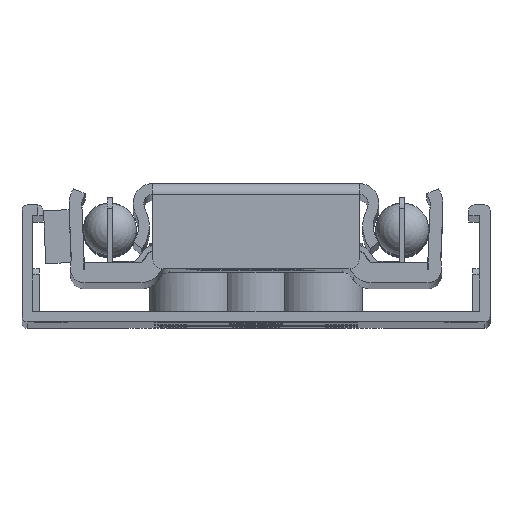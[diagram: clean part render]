
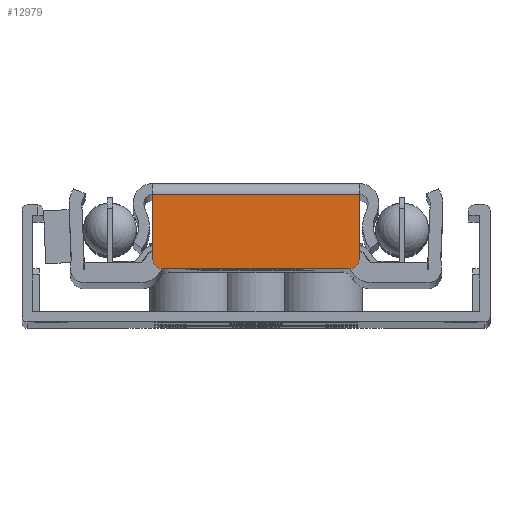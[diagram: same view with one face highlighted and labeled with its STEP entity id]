
A CAD part, top view. The second image highlights one B-rep face of the part: STEP entity #12979.
In plain terms, the highlighted planar face has unit normal (0, 0, 1).
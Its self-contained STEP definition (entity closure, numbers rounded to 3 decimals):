
#918=CIRCLE('',#14247,1.);
#919=CIRCLE('',#14248,1.);
#1699=FACE_OUTER_BOUND('',#2478,.T.);
#2478=EDGE_LOOP('',(#11813,#11814,#11815,#11816,#11817,#11818));
#3755=LINE('',#21959,#5036);
#3756=LINE('',#21962,#5037);
#3757=LINE('',#21966,#5038);
#3758=LINE('',#21969,#5039);
#5036=VECTOR('',#17920,10.);
#5037=VECTOR('',#17923,10.);
#5038=VECTOR('',#17926,10.);
#5039=VECTOR('',#17929,10.);
#6282=VERTEX_POINT('',#21955);
#6283=VERTEX_POINT('',#21957);
#6284=VERTEX_POINT('',#21961);
#6285=VERTEX_POINT('',#21963);
#6286=VERTEX_POINT('',#21965);
#6287=VERTEX_POINT('',#21967);
#8144=EDGE_CURVE('',#6283,#6282,#3755,.T.);
#8145=EDGE_CURVE('',#6283,#6284,#3756,.T.);
#8146=EDGE_CURVE('',#6285,#6284,#918,.T.);
#8147=EDGE_CURVE('',#6285,#6286,#3757,.T.);
#8148=EDGE_CURVE('',#6287,#6286,#919,.T.);
#8149=EDGE_CURVE('',#6282,#6287,#3758,.T.);
#11813=ORIENTED_EDGE('',*,*,#8144,.F.);
#11814=ORIENTED_EDGE('',*,*,#8145,.T.);
#11815=ORIENTED_EDGE('',*,*,#8146,.F.);
#11816=ORIENTED_EDGE('',*,*,#8147,.T.);
#11817=ORIENTED_EDGE('',*,*,#8148,.F.);
#11818=ORIENTED_EDGE('',*,*,#8149,.F.);
#12341=PLANE('',#14246);
#12979=ADVANCED_FACE('',(#1699),#12341,.T.);
#14246=AXIS2_PLACEMENT_3D('',#21960,#17921,#17922);
#14247=AXIS2_PLACEMENT_3D('',#21964,#17924,#17925);
#14248=AXIS2_PLACEMENT_3D('',#21968,#17927,#17928);
#17920=DIRECTION('',(-1.,0.,0.));
#17921=DIRECTION('center_axis',(0.,0.,1.));
#17922=DIRECTION('ref_axis',(1.,0.,0.));
#17923=DIRECTION('',(0.,1.,0.));
#17924=DIRECTION('center_axis',(0.,0.,-1.));
#17925=DIRECTION('ref_axis',(0.707,0.707,0.));
#17926=DIRECTION('',(-1.,0.,0.));
#17927=DIRECTION('center_axis',(0.,0.,-1.));
#17928=DIRECTION('ref_axis',(-0.707,0.707,0.));
#17929=DIRECTION('',(0.,1.,0.));
#21955=CARTESIAN_POINT('',(4.892,-4.95,349.));
#21957=CARTESIAN_POINT('',(24.354,-4.95,349.));
#21959=CARTESIAN_POINT('',(19.501,-4.95,349.));
#21960=CARTESIAN_POINT('Origin',(24.354,-5.95,349.));
#21961=CARTESIAN_POINT('',(24.354,1.05,349.));
#21962=CARTESIAN_POINT('',(24.354,-5.95,349.));
#21963=CARTESIAN_POINT('',(23.354,2.05,349.));
#21964=CARTESIAN_POINT('Origin',(23.354,1.05,349.));
#21965=CARTESIAN_POINT('',(5.892,2.05,349.));
#21966=CARTESIAN_POINT('',(24.354,2.05,349.));
#21967=CARTESIAN_POINT('',(4.892,1.05,349.));
#21968=CARTESIAN_POINT('Origin',(5.892,1.05,349.));
#21969=CARTESIAN_POINT('',(4.892,-5.95,349.));
